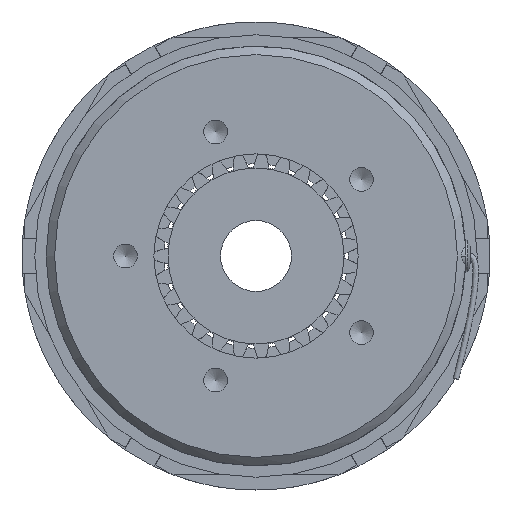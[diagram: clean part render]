
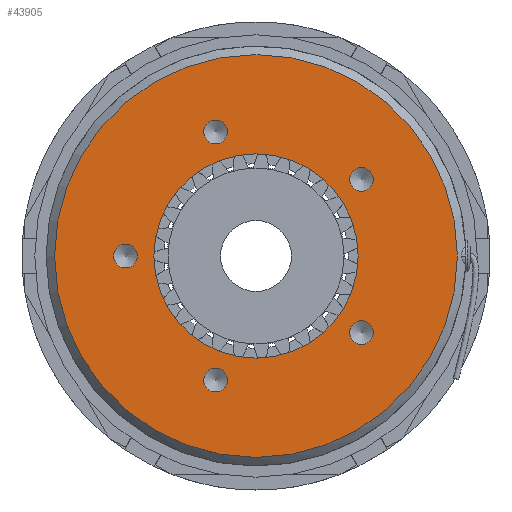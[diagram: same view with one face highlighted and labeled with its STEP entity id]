
A CAD part, left-side view. The second image highlights one B-rep face of the part: STEP entity #43905.
In plain terms, the highlighted planar face has unit normal (-1, 0, 0).
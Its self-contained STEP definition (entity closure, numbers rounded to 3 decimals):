
#242=FACE_BOUND('',#4761,.T.);
#243=FACE_BOUND('',#4762,.T.);
#244=FACE_BOUND('',#4763,.T.);
#245=FACE_BOUND('',#4764,.T.);
#246=FACE_BOUND('',#4765,.T.);
#247=FACE_BOUND('',#4766,.T.);
#914=PLANE('',#49346);
#2756=FACE_OUTER_BOUND('',#4760,.T.);
#4760=EDGE_LOOP('',(#38896));
#4761=EDGE_LOOP('',(#38897));
#4762=EDGE_LOOP('',(#38898));
#4763=EDGE_LOOP('',(#38899));
#4764=EDGE_LOOP('',(#38900));
#4765=EDGE_LOOP('',(#38901));
#4766=EDGE_LOOP('',(#38902));
#8493=CIRCLE('',#49317,71.);
#8495=CIRCLE('',#49321,4.188);
#8497=CIRCLE('',#49325,4.188);
#8499=CIRCLE('',#49329,4.188);
#8501=CIRCLE('',#49333,4.188);
#8503=CIRCLE('',#49337,4.188);
#8507=CIRCLE('',#49345,36.);
#18849=VERTEX_POINT('',#77591);
#18852=VERTEX_POINT('',#77600);
#18855=VERTEX_POINT('',#77609);
#18858=VERTEX_POINT('',#77618);
#18861=VERTEX_POINT('',#77627);
#18864=VERTEX_POINT('',#77636);
#18867=VERTEX_POINT('',#77649);
#25535=EDGE_CURVE('',#18849,#18849,#8493,.T.);
#25538=EDGE_CURVE('',#18852,#18852,#8495,.T.);
#25542=EDGE_CURVE('',#18855,#18855,#8497,.T.);
#25546=EDGE_CURVE('',#18858,#18858,#8499,.T.);
#25550=EDGE_CURVE('',#18861,#18861,#8501,.T.);
#25554=EDGE_CURVE('',#18864,#18864,#8503,.T.);
#25561=EDGE_CURVE('',#18867,#18867,#8507,.T.);
#38896=ORIENTED_EDGE('',*,*,#25535,.F.);
#38897=ORIENTED_EDGE('',*,*,#25538,.T.);
#38898=ORIENTED_EDGE('',*,*,#25542,.T.);
#38899=ORIENTED_EDGE('',*,*,#25546,.T.);
#38900=ORIENTED_EDGE('',*,*,#25550,.T.);
#38901=ORIENTED_EDGE('',*,*,#25554,.T.);
#38902=ORIENTED_EDGE('',*,*,#25561,.T.);
#43905=ADVANCED_FACE('',(#2756,#242,#243,#244,#245,#246,#247),#914,.T.);
#49317=AXIS2_PLACEMENT_3D('',#77593,#63079,#63080);
#49321=AXIS2_PLACEMENT_3D('',#77601,#63088,#63089);
#49325=AXIS2_PLACEMENT_3D('',#77610,#63098,#63099);
#49329=AXIS2_PLACEMENT_3D('',#77619,#63108,#63109);
#49333=AXIS2_PLACEMENT_3D('',#77628,#63118,#63119);
#49337=AXIS2_PLACEMENT_3D('',#77637,#63128,#63129);
#49345=AXIS2_PLACEMENT_3D('',#77651,#63147,#63148);
#49346=AXIS2_PLACEMENT_3D('',#77652,#63149,#63150);
#63079=DIRECTION('center_axis',(1.,0.,0.));
#63080=DIRECTION('ref_axis',(0.,0.,-1.));
#63088=DIRECTION('center_axis',(1.,0.,0.));
#63089=DIRECTION('ref_axis',(0.,0.,1.));
#63098=DIRECTION('center_axis',(1.,0.,0.));
#63099=DIRECTION('ref_axis',(0.,0.,1.));
#63108=DIRECTION('center_axis',(1.,0.,0.));
#63109=DIRECTION('ref_axis',(0.,0.,1.));
#63118=DIRECTION('center_axis',(1.,0.,0.));
#63119=DIRECTION('ref_axis',(0.,0.,1.));
#63128=DIRECTION('center_axis',(1.,0.,0.));
#63129=DIRECTION('ref_axis',(0.,0.,1.));
#63147=DIRECTION('center_axis',(1.,0.,0.));
#63148=DIRECTION('ref_axis',(0.,0.,-1.));
#63149=DIRECTION('center_axis',(-1.,0.,0.));
#63150=DIRECTION('ref_axis',(0.,0.,1.));
#77591=CARTESIAN_POINT('',(-17.25,-71.,0.));
#77593=CARTESIAN_POINT('Origin',(-17.25,0.,0.));
#77600=CARTESIAN_POINT('',(-17.25,-37.215,22.85));
#77601=CARTESIAN_POINT('Origin',(-17.25,-37.215,27.038));
#77609=CARTESIAN_POINT('',(-17.25,14.215,-47.937));
#77610=CARTESIAN_POINT('Origin',(-17.25,14.215,-43.749));
#77618=CARTESIAN_POINT('',(-17.25,46.,-4.188));
#77619=CARTESIAN_POINT('Origin',(-17.25,46.,0.));
#77627=CARTESIAN_POINT('',(-17.25,-37.215,-31.226));
#77628=CARTESIAN_POINT('Origin',(-17.25,-37.215,-27.038));
#77636=CARTESIAN_POINT('',(-17.25,14.215,39.561));
#77637=CARTESIAN_POINT('Origin',(-17.25,14.215,43.749));
#77649=CARTESIAN_POINT('',(-17.25,-36.,0.));
#77651=CARTESIAN_POINT('Origin',(-17.25,0.,0.));
#77652=CARTESIAN_POINT('Origin',(-17.25,71.,0.));
